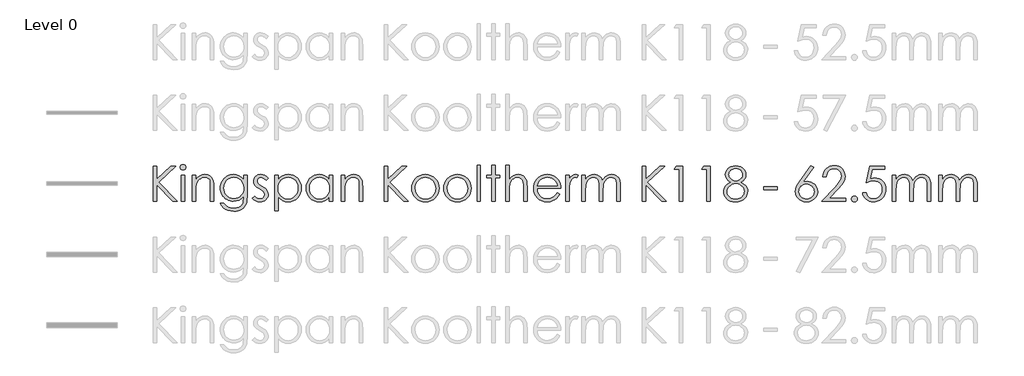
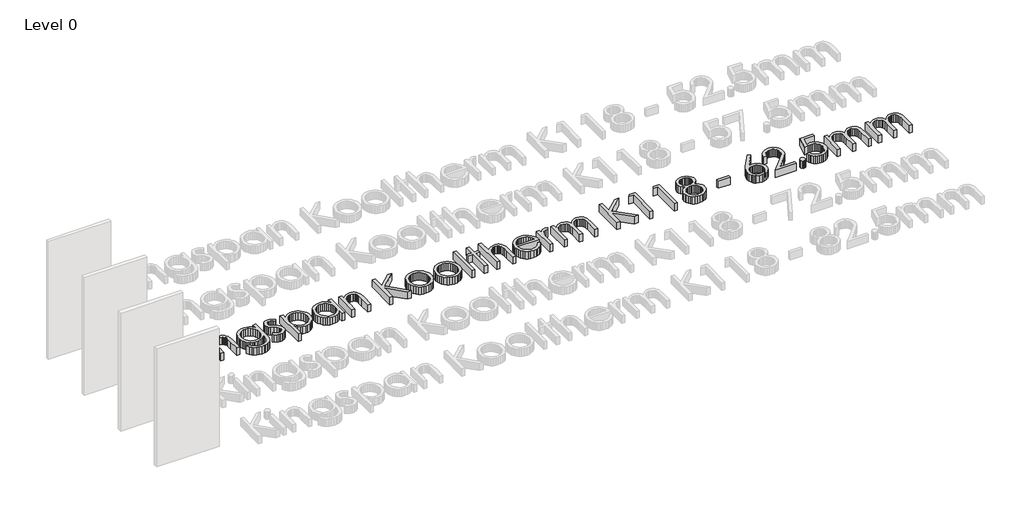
# One storey, part 4 of 8: 1 proxy.
"""IFC4 building model written with IfcOpenShell, lengths in millimetres."""

from ifc_helpers import new_model, si_unit, origin, origin_with_axes, place, context, project, spatial, polyline, outline, extrude, element, save

model = new_model("IFC4")

# Units and contexts
model_context = context("Model", 3, world=origin())
ifc_project = project(units=[si_unit("LENGTHUNIT", "METRE", prefix="MILLI")], contexts=[model_context])

# Site, building, storey
site = spatial("IfcSite", under=ifc_project)
building = spatial("IfcBuilding", under=site)
storey = spatial("IfcBuildingStorey", under=building, Name="Level 0", Elevation=0.0)

# Proxy
placement = place(None, origin())
element("IfcBuildingElementProxy", 1, Name="600mm KI_CenturyGothic", ObjectType="600mm KI_CenturyGothic", at=placement, inside=storey, context=model_context, shape_type="SweptSolid", body=[
    extrude(outline(polyline([(-3852.2663848, 1100.8965983), (-3792.944575, 1100.8965983), (-3792.944575, 881.683973), (-3555.1938841, 1100.8965983), (-3471.6181051, 1100.8965983), (-3760.9664119, 833.9484541), (-3441.9572002, 507.6785001), (-3520.8984627, 507.6785001), (-3792.944575, 785.9039675), (-3792.944575, 507.6785001), (-3852.2663848, 507.6785001), (-3852.2663848, 1100.8965983)])), origin_with_axes(), (0.0, 0.0, 1.0), 150.0),
    extrude(outline(polyline([(-3348.1854852, 1130.5575033), (-3329.145347, 1127.2747208), (-3313.1176445, 1117.4263735), (-3302.226531, 1102.9821307), (-3298.5961598, 1085.911662), (-3302.226531, 1069.0729191), (-3313.1176445, 1054.7059183), (-3329.145347, 1044.857571), (-3348.1854852, 1041.5747885), (-3366.9938975, 1044.857571), (-3382.9443581, 1054.7059183), (-3393.8354717, 1069.0729191), (-3397.4658428, 1085.911662), (-3393.8354717, 1102.9821307), (-3382.9443581, 1117.4263735), (-3366.9938975, 1127.2747208), (-3348.1854852, 1130.5575033)])), origin_with_axes(), (0.0, 0.0, 1.0), 150.0),
    extrude(outline(polyline([(-3377.6919062, 952.5920738), (-3318.3700964, 952.5920738), (-3318.3700964, 507.6785001), (-3377.6919062, 507.6785001), (-3377.6919062, 952.5920738)])), origin_with_axes(), (0.0, 0.0, 1.0), 150.0),
    extrude(outline(polyline([(-3189.8395084, 952.5920738), (-3130.5176986, 952.5920738), (-3130.5176986, 873.4963274), (-3096.9946967, 913.0055796), (-3060.0730495, 940.696815), (-3019.7141359, 957.0334853), (-2975.879335, 962.4790421), (-2953.4357238, 960.9004099), (-2932.2955704, 956.1645135), (-2912.4588747, 948.2713528), (-2893.9256368, 937.2209277), (-2877.212412, 923.4960006), (-2862.835756, 907.5793333), (-2841.0921499, 869.1707787), (-2833.6238199, 844.7912914), (-2828.2892984, 814.4448643), (-2824.0216812, 735.8511905), (-2824.0216812, 507.6785001), (-2883.343491, 507.6785001), (-2883.343491, 720.8662542), (-2883.343491, 823.907002), (-2884.7290183, 844.7043943), (-2889.8125035, 862.7596977), (-2898.2849788, 878.0729123), (-2910.1464442, 890.644038), (-2924.7403432, 900.4441091), (-2941.4101193, 907.4441599), (-2980.977303, 913.0442006), (-3005.3471351, 910.8862539), (-3028.4038541, 904.4124138), (-3050.1474602, 893.6226803), (-3070.5779533, 878.5170534), (-3088.6622225, 860.2348518), (-3103.3671568, 839.915394), (-3114.6927562, 817.55868), (-3122.6390208, 793.1647099), (-3128.5480292, 746.0857475), (-3130.5176986, 671.5858965), (-3130.5176986, 507.6785001), (-3189.8395084, 507.6785001), (-3189.8395084, 952.5920738)])), origin_with_axes(), (0.0, 0.0, 1.0), 150.0),
    extrude(outline(polyline([(-2319.7862977, 952.5920738), (-2260.4644879, 952.5920738), (-2260.4644879, 601.604699), (-2264.5196897, 521.3503235), (-2269.588692, 490.5500999), (-2276.6852953, 465.9678526), (-2289.9371156, 437.3545415), (-2307.2924139, 412.2267729), (-2328.7511904, 390.5845469), (-2354.3134448, 372.4278634), (-2383.3226209, 358.0656902), (-2415.122162, 347.8069951), (-2449.7120682, 341.651778), (-2487.0923395, 339.6000389), (-2541.0458345, 343.6166198), (-2589.206184, 355.6663624), (-2630.260275, 374.4940853), (-2662.8949946, 398.8446068), (-2690.2000204, 432.1938144), (-2715.2650299, 478.0175952), (-2655.94322, 478.0175952), (-2642.4355358, 456.848476), (-2627.0933555, 438.6048954), (-2609.9166791, 423.2868532), (-2590.9055067, 410.8943494), (-2569.7894914, 401.3308318), (-2546.2982864, 394.4997477), (-2492.1903075, 389.0348805), (-2438.5071593, 394.3645743), (-2415.083541, 401.0266916), (-2393.93856, 410.3536559), (-2359.6624492, 434.3952097), (-2336.8567664, 463.8823202), (-2329.3884364, 482.5217658), (-2324.0539149, 506.2302137), (-2319.7862977, 568.8541165), (-2319.7862977, 591.5632468), (-2354.757586, 555.7809182), (-2396.6420279, 529.3834852), (-2443.392712, 513.1047464), (-2492.9627269, 507.6785001), (-2522.4063889, 509.5757553), (-2550.9521133, 515.2675207), (-2578.5999001, 524.7537964), (-2605.3497494, 538.0345825), (-2630.1540674, 554.5257366), (-2651.9652601, 573.6431168), (-2670.7833277, 595.3867228), (-2686.6082702, 619.7565549), (-2699.1456025, 646.0719183), (-2708.1008399, 673.6521184), (-2713.4739824, 702.4971553), (-2715.2650299, 732.607029), (-2713.3967404, 762.8955247), (-2707.7918722, 792.1219437), (-2698.4504251, 820.286286), (-2685.3723991, 847.3885517), (-2668.9971079, 872.5742517), (-2649.7638648, 894.9888971), (-2627.67267, 914.632488), (-2602.7235235, 931.5050242), (-2575.9833294, 945.056157), (-2548.5189922, 954.7355376), (-2520.3305117, 960.543166), (-2491.4178881, 962.4790421), (-2444.5320306, 957.5355579), (-2400.8903346, 942.7051055), (-2359.6045177, 916.1338782), (-2319.7862977, 875.9680694), (-2319.7862977, 952.5920738)]), holes=[polyline([(-2484.1571458, 913.0442006), (-2529.0154023, 907.0193293), (-2570.5908765, 888.9447153), (-2606.2187212, 860.2300242), (-2633.2340897, 822.2849212), (-2650.2659375, 778.0059792), (-2655.94322, 730.2897708), (-2653.0080263, 694.3770964), (-2644.2024452, 661.7182387), (-2629.5264766, 632.3131977), (-2608.9801206, 606.1619734), (-2583.7606272, 584.703197), (-2555.0652466, 569.3754996), (-2522.8939786, 560.1788811), (-2487.2468234, 557.1133416), (-2451.3244937, 560.154743), (-2419.1001219, 569.2789472), (-2390.573708, 584.4859541), (-2365.7452519, 605.7757637), (-2345.6382095, 632.0187128), (-2331.2760363, 662.0851379), (-2322.6587323, 695.975039), (-2319.7862977, 733.6884162), (-2325.0773706, 782.3894593), (-2340.9505892, 825.6063246), (-2366.4983608, 861.8327944), (-2400.8130926, 889.5626508), (-2440.9982119, 907.1738131), (-2484.1571458, 913.0442006)])]), origin_with_axes(), (0.0, 0.0, 1.0), 150.0),
    extrude(outline(polyline([(-1904.5336289, 901.3034257), (-1940.9918246, 863.609359), (-1962.9575012, 885.2371022), (-1984.6721416, 900.6854902), (-2006.1357456, 909.954523), (-2027.3483133, 913.0442006), (-2052.181597, 908.3710632), (-2073.2300256, 894.3516511), (-2087.5970264, 874.1142629), (-2092.3860267, 850.787197), (-2088.4466878, 829.2366958), (-2076.628671, 808.7675817), (-2052.0657341, 786.599145), (-2010.2006027, 760.877579), (-1958.3326401, 728.0111336), (-1939.8428507, 712.1861912), (-1926.315856, 696.7667689), (-1909.9791857, 664.0934284), (-1904.5336289, 627.5579908), (-1906.9474396, 601.4115941), (-1914.1888714, 577.3507299), (-1926.2579245, 555.375398), (-1943.1545989, 535.4855985), (-1963.6719892, 518.9944443), (-1986.6031901, 507.2150485), (-2011.9482016, 500.147411), (-2039.7070237, 497.7915318), (-2077.4397114, 501.6729393), (-2113.3958344, 513.3171617), (-2145.4512394, 531.7972958), (-2171.4817731, 556.1864383), (-2135.7959969, 596.6612148), (-2114.0041146, 575.0334717), (-2091.5749863, 559.5850837), (-2068.5086121, 550.3160509), (-2044.8049918, 547.2263733), (-2013.637869, 552.8650349), (-1987.4914724, 569.7810198), (-1969.7644472, 594.3439566), (-1963.8554388, 622.9234744), (-1967.7561567, 646.7139919), (-1979.4583106, 667.7237995), (-2005.0253927, 689.4287846), (-2050.2119275, 716.2317378), (-2099.762632, 746.8967879), (-2117.441381, 762.0555186), (-2130.3890611, 777.0983864), (-2146.3781427, 809.2310334), (-2151.7078365, 845.689229), (-2149.5305794, 869.7356104), (-2142.9988078, 891.6674937), (-2132.1125219, 911.4848789), (-2116.8717217, 929.187766), (-2098.309518, 943.7526993), (-2077.4590218, 954.1562231), (-2054.3202332, 960.3983373), (-2028.8931521, 962.4790421), (-1997.9481, 958.6555661), (-1966.9064954, 947.185138), (-1935.7683384, 928.0677579), (-1904.5336289, 901.3034257)])), origin_with_axes(), (0.0, 0.0, 1.0), 150.0),
    extrude(outline(polyline([(-1795.7769776, 952.5920738), (-1736.4551678, 952.5920738), (-1736.4551678, 871.4880369), (-1700.9238754, 911.7310876), (-1660.4490989, 940.0788795), (-1614.9922173, 956.8790014), (-1564.5146096, 962.4790421), (-1520.0618732, 958.2403906), (-1478.9305402, 945.5244363), (-1441.1206107, 924.331179), (-1406.6320845, 894.6606189), (-1377.9077381, 859.0231189), (-1357.3903478, 819.929042), (-1345.0799137, 777.3783884), (-1340.9764356, 731.371158), (-1345.0412927, 684.4708176), (-1357.235864, 641.2491246), (-1377.5601494, 601.706079), (-1406.014149, 565.8416808), (-1440.2130179, 536.0697406), (-1477.7719111, 514.8040691), (-1518.6908288, 502.0446661), (-1562.9697708, 497.7915318), (-1612.6170277, 503.256399), (-1658.0545988, 519.6510008), (-1699.3211052, 546.8980951), (-1736.4551678, 584.92044), (-1736.4551678, 349.4870072), (-1795.7769776, 349.4870072), (-1795.7769776, 952.5920738)]), holes=[polyline([(-1568.5311905, 913.0442006), (-1602.5852307, 909.7469353), (-1633.8392507, 899.8551393), (-1662.2932503, 883.3688128), (-1687.9472295, 860.2879556), (-1709.1694525, 832.3022353), (-1724.3281832, 801.1013192), (-1733.4234216, 766.6852074), (-1736.4551678, 729.0538998), (-1731.048232, 680.1983728), (-1714.8274246, 636.5180558), (-1688.5265441, 599.6736505), (-1652.8793888, 571.3258586), (-1611.4390881, 553.2512446), (-1567.7587711, 547.2263733), (-1525.0632888, 553.2898656), (-1485.0326535, 571.4803424), (-1450.2544701, 600.5812433), (-1423.3163435, 639.3760076), (-1406.05277, 684.0411593), (-1400.2982454, 730.7532225), (-1405.9948385, 777.6970114), (-1423.0846177, 822.1304373), (-1449.8103289, 860.4810605), (-1484.414718, 889.1764411), (-1524.7157001, 907.0772607), (-1568.5311905, 913.0442006)])]), origin_with_axes(), (0.0, 0.0, 1.0), 150.0),
    extrude(outline(polyline([(-807.0801472, 952.5920738), (-807.0801472, 507.6785001), (-866.401957, 507.6785001), (-866.401957, 583.5300851), (-903.4780882, 545.6815345), (-944.8797679, 518.9558233), (-990.4525125, 503.0826047), (-1040.0418379, 497.7915318), (-1084.3159523, 502.0446661), (-1125.2203871, 514.8040691), (-1162.7551422, 536.0697406), (-1196.9202178, 565.8416808), (-1225.340424, 601.706079), (-1245.6405713, 641.2491246), (-1257.8206597, 684.4708176), (-1261.8806892, 731.371158), (-1257.7820388, 777.3783884), (-1245.4860875, 819.929042), (-1224.9928353, 859.0231189), (-1196.3022822, 894.6606189), (-1161.8475494, 924.331179), (-1124.061758, 945.5244363), (-1082.9449079, 958.2403906), (-1038.4969991, 962.4790421), (-987.7490446, 956.8790014), (-942.0990581, 940.0788795), (-921.2051134, 927.3918909), (-901.6242816, 911.7310876), (-866.401957, 871.4880369), (-866.401957, 952.5920738), (-807.0801472, 952.5920738)]), holes=[polyline([(-1034.3259343, 913.0442006), (-1078.1414247, 907.0772607), (-1118.4424068, 889.1764411), (-1153.0467959, 860.4810605), (-1179.7725071, 822.1304373), (-1196.8622863, 777.6970114), (-1202.5588794, 730.7532225), (-1196.8043548, 684.0411593), (-1179.5407813, 639.3760076), (-1152.6026548, 600.5812433), (-1117.8244713, 571.4803424), (-1077.6779731, 553.2898656), (-1034.6349021, 547.2263733), (-991.0125165, 553.2512446), (-949.7460102, 571.3258586), (-914.2726493, 599.6736505), (-888.0297002, 636.5180558), (-871.8088928, 680.1983728), (-866.401957, 729.0538998), (-869.4337032, 766.6852074), (-878.5289416, 801.1013192), (-893.6876723, 832.3022353), (-914.9098953, 860.2879556), (-940.5638746, 883.3688128), (-969.0178742, 899.8551393), (-1000.2718941, 909.7469353), (-1034.3259343, 913.0442006)])]), origin_with_axes(), (0.0, 0.0, 1.0), 150.0),
    extrude(outline(polyline([(-668.662591, 952.5920738), (-609.3407811, 952.5920738), (-609.3407811, 873.4963274), (-575.8177792, 913.0055796), (-538.896132, 940.696815), (-498.5372184, 957.0334853), (-454.7024175, 962.4790421), (-432.2588064, 960.9004099), (-411.1186529, 956.1645135), (-391.2819572, 948.2713528), (-372.7487193, 937.2209277), (-356.0354946, 923.4960006), (-341.6588385, 907.5793333), (-319.9152324, 869.1707787), (-312.4469024, 844.7912914), (-307.1123809, 814.4448643), (-302.8447637, 735.8511905), (-302.8447637, 507.6785001), (-362.1665735, 507.6785001), (-362.1665735, 720.8662542), (-362.1665735, 823.907002), (-363.5521008, 844.7043943), (-368.635586, 862.7596977), (-377.1080613, 878.0729123), (-388.9695267, 890.644038), (-403.5634257, 900.4441091), (-420.2332018, 907.4441599), (-459.8003855, 913.0442006), (-484.1702176, 910.8862539), (-507.2269366, 904.4124138), (-528.9705427, 893.6226803), (-549.4010358, 878.5170534), (-567.485305, 860.2348518), (-582.1902393, 839.915394), (-593.5158387, 817.55868), (-601.4621033, 793.1647099), (-607.3711117, 746.0857475), (-609.3407811, 671.5858965), (-609.3407811, 507.6785001), (-668.662591, 507.6785001), (-668.662591, 952.5920738)])), origin_with_axes(), (0.0, 0.0, 1.0), 150.0),
    extrude(outline(polyline([(62.9730635, 1100.8965983), (122.2948734, 1100.8965983), (122.2948734, 881.683973), (360.0455643, 1100.8965983), (443.6213432, 1100.8965983), (154.2730365, 833.9484541), (473.2822481, 507.6785001), (394.3409856, 507.6785001), (122.2948734, 785.9039675), (122.2948734, 507.6785001), (62.9730635, 507.6785001), (62.9730635, 1100.8965983)])), origin_with_axes(), (0.0, 0.0, 1.0), 150.0),
    extrude(outline(polyline([(760.1588128, 962.4790421), (809.4681362, 957.8541809), (854.3553585, 943.9795975), (894.8204798, 920.8552917), (930.8635, 888.4812637), (957.7630055, 853.2492839), (976.9769381, 814.908316), (988.5052976, 773.45836), (992.3480841, 728.8994159), (988.283227, 684.0846079), (976.0886558, 642.1760279), (955.7643703, 603.1736759), (927.3103707, 567.0775519), (892.4742558, 536.7649181), (853.0036246, 515.1130368), (808.8984769, 502.1219081), (760.1588128, 497.7915318), (711.2839754, 502.1219081), (667.0822753, 515.1130368), (627.5537126, 536.7649181), (592.6982872, 567.0775519), (564.2442876, 603.1736759), (543.9200022, 642.1760279), (531.7254309, 684.0846079), (527.6605738, 728.8994159), (531.5033603, 773.2652551), (543.0317198, 814.5993482), (562.2456524, 852.9016951), (589.145158, 888.1722959), (625.2074886, 920.6814974), (665.7305413, 943.9023555), (710.7143161, 957.8348705), (760.1588128, 962.4790421)]), holes=[polyline([(760.004329, 913.0442006), (725.7282181, 909.6696933), (693.9624704, 899.5461716), (664.7070856, 882.6736353), (637.962064, 859.0520846), (615.6584538, 830.6415336), (599.7273037, 799.4019965), (590.1686137, 765.3334734), (586.9823836, 728.4359643), (592.7948396, 680.7004454), (610.2322075, 636.3635719), (637.5758543, 598.5729529), (673.1071466, 570.4761972), (714.6439998, 553.0388293), (760.004329, 547.2263733), (805.3646581, 553.0388293), (846.9015113, 570.4761972), (882.4328037, 598.5729529), (909.7764504, 636.3635719), (927.2138183, 680.7004454), (933.0262743, 728.4359643), (929.8255614, 765.3334734), (920.2234227, 799.4019965), (904.2198583, 830.6415336), (881.8148681, 859.0520846), (854.9974321, 882.6736353), (825.7565303, 899.5461716), (794.0921625, 909.6696933), (760.004329, 913.0442006)])]), origin_with_axes(), (0.0, 0.0, 1.0), 150.0),
    extrude(outline(polyline([(1303.9420695, 962.4790421), (1353.2513929, 957.8541809), (1398.1386152, 943.9795975), (1438.6037365, 920.8552917), (1474.6467567, 888.4812637), (1501.5462622, 853.2492839), (1520.7601948, 814.908316), (1532.2885543, 773.45836), (1536.1313408, 728.8994159), (1532.0664837, 684.0846079), (1519.8719125, 642.1760279), (1499.547627, 603.1736759), (1471.0936274, 567.0775519), (1436.2575126, 536.7649181), (1396.7868813, 515.1130368), (1352.6817336, 502.1219081), (1303.9420695, 497.7915318), (1255.0672321, 502.1219081), (1210.865532, 515.1130368), (1171.3369693, 536.7649181), (1136.4815439, 567.0775519), (1108.0275443, 603.1736759), (1087.7032589, 642.1760279), (1075.5086876, 684.0846079), (1071.4438305, 728.8994159), (1075.286617, 773.2652551), (1086.8149766, 814.5993482), (1106.0289091, 852.9016951), (1132.9284147, 888.1722959), (1168.9907453, 920.6814974), (1209.5137981, 943.9023555), (1254.4975728, 957.8348705), (1303.9420695, 962.4790421)]), holes=[polyline([(1303.7875857, 913.0442006), (1269.5114748, 909.6696933), (1237.7457271, 899.5461716), (1208.4903423, 882.6736353), (1181.7453207, 859.0520846), (1159.4417105, 830.6415336), (1143.5105604, 799.4019965), (1133.9518704, 765.3334734), (1130.7656404, 728.4359643), (1136.5780963, 680.7004454), (1154.0154643, 636.3635719), (1181.359111, 598.5729529), (1216.8904033, 570.4761972), (1258.4272565, 553.0388293), (1303.7875857, 547.2263733), (1349.1479149, 553.0388293), (1390.684768, 570.4761972), (1426.2160604, 598.5729529), (1453.5597071, 636.3635719), (1470.997075, 680.7004454), (1476.809531, 728.4359643), (1473.6088181, 765.3334734), (1464.0066795, 799.4019965), (1448.003115, 830.6415336), (1425.5981249, 859.0520846), (1398.7806889, 882.6736353), (1369.539787, 899.5461716), (1337.8754193, 909.6696933), (1303.7875857, 913.0442006)])]), origin_with_axes(), (0.0, 0.0, 1.0), 150.0),
    extrude(outline(polyline([(1635.0010238, 1120.6705349), (1694.3228337, 1120.6705349), (1694.3228337, 507.6785001), (1635.0010238, 507.6785001), (1635.0010238, 1120.6705349)])), origin_with_axes(), (0.0, 0.0, 1.0), 150.0),
    extrude(outline(polyline([(1882.1752314, 1120.6705349), (1941.4970413, 1120.6705349), (1941.4970413, 952.5920738), (2020.5927877, 952.5920738), (2020.5927877, 903.1572323), (1941.4970413, 903.1572323), (1941.4970413, 507.6785001), (1882.1752314, 507.6785001), (1882.1752314, 903.1572323), (1803.079485, 903.1572323), (1803.079485, 952.5920738), (1882.1752314, 952.5920738), (1882.1752314, 1120.6705349)])), origin_with_axes(), (0.0, 0.0, 1.0), 150.0),
    extrude(outline(polyline([(2119.4624707, 1120.6705349), (2178.7842806, 1120.6705349), (2178.7842806, 871.9514886), (2212.5583188, 911.6538456), (2249.6151394, 939.9243956), (2289.9161216, 956.8403805), (2333.4226442, 962.4790421), (2355.8662553, 960.9004099), (2377.0064088, 956.1645135), (2396.8431044, 948.2713528), (2415.3763424, 937.2209277), (2432.0895671, 923.5104834), (2446.4662232, 907.6372648), (2468.2098293, 869.4025045), (2475.6781593, 845.0954316), (2481.0126808, 814.7345216), (2485.280298, 735.8511905), (2485.280298, 507.6785001), (2425.9584882, 507.6785001), (2425.9584882, 720.8662542), (2424.5681332, 785.247411), (2420.3970685, 823.907002), (2406.879729, 862.7596977), (2397.1665551, 878.0729123), (2385.4837117, 890.644038), (2371.840854, 900.4441091), (2356.2476374, 907.4441599), (2319.2101273, 913.0442006), (2296.3416854, 910.8862539), (2274.6994594, 904.4124138), (2254.2834492, 893.6226803), (2235.0936547, 878.5170534), (2218.1052556, 860.2348518), (2204.2934312, 839.915394), (2193.6581816, 817.55868), (2186.1995068, 793.1647099), (2180.6380871, 746.3174733), (2178.7842806, 671.5858965), (2178.7842806, 507.6785001), (2119.4624707, 507.6785001), (2119.4624707, 1120.6705349)])), origin_with_axes(), (0.0, 0.0, 1.0), 150.0),
    extrude(outline(polyline([(2991.0605203, 655.9830247), (3038.950523, 630.8021523), (3013.3255094, 588.9177104), (2984.0315038, 555.9547125), (2950.952643, 530.8703926), (2913.9730643, 512.6219843), (2872.4941426, 501.4991449), (2825.9172528, 497.7915318), (2774.4258447, 502.2232881), (2728.8627554, 515.518557), (2689.227985, 537.6773385), (2655.5215335, 568.6996326), (2628.6220279, 605.3026569), (2609.4080954, 644.2036288), (2597.8797358, 685.4025485), (2594.0369493, 728.8994159), (2597.3197318, 769.7797126), (2607.1680791, 808.381372), (2623.5819913, 844.7043943), (2646.5614684, 878.7487793), (2682.7493173, 915.3807692), (2724.5758277, 941.5464764), (2772.0409998, 957.2459007), (2825.1448334, 962.4790421), (2879.7935059, 957.1107273), (2928.6490329, 941.0057828), (2971.7114143, 914.1642087), (3008.9806503, 876.5860049), (3030.4539096, 844.414737), (3045.9022976, 808.458614), (3055.3258143, 768.7176359), (3058.7244596, 725.1918028), (2653.3587591, 725.1918028), (2657.095338, 687.9370497), (2666.6057518, 654.1871496), (2681.8900007, 623.9421025), (2702.9480845, 597.2019084), (2728.3124066, 575.3376118), (2756.5153699, 559.7202571), (2787.5569744, 550.3498443), (2821.4372203, 547.2263733), (2854.9602222, 550.238809), (2887.5563208, 559.2761159), (2917.2944677, 573.3148385), (2942.2436143, 591.331521), (2965.725164, 617.4972281), (2991.0605203, 655.9830247)]), holes=[polyline([(2999.4026498, 774.6266443), (2984.9777175, 817.1483322), (2965.1844704, 850.1692615), (2939.0766947, 875.6977226), (2905.7081767, 895.742006), (2867.7630738, 908.7186519), (2827.9255433, 913.0442006), (2795.503239, 910.3310774), (2765.4368139, 902.191708), (2737.726268, 888.6260923), (2712.3716012, 869.6342304), (2695.8321708, 851.820308), (2681.4362043, 830.0477362), (2669.1837016, 804.316515), (2659.0746627, 774.6266443), (2999.4026498, 774.6266443)])]), origin_with_axes(), (0.0, 0.0, 1.0), 150.0),
    extrude(outline(polyline([(3137.820206, 952.5920738), (3197.1420159, 952.5920738), (3197.1420159, 888.1722959), (3222.6897875, 921.2125357), (3249.589293, 944.3271862), (3277.7632906, 957.9410781), (3307.1345382, 962.4790421), (3330.4616041, 958.694187), (3355.3335087, 947.3396219), (3325.8270877, 905.3200066), (3297.2475699, 913.0442006), (3270.8308265, 907.0965712), (3245.3409863, 889.2536831), (3223.2884125, 858.8976007), (3207.183468, 815.4103886), (3199.6523789, 757.2858288), (3197.1420159, 659.8451217), (3197.1420159, 507.6785001), (3137.820206, 507.6785001), (3137.820206, 952.5920738)])), origin_with_axes(), (0.0, 0.0, 1.0), 150.0),
    extrude(outline(polyline([(3414.6553185, 952.5920738), (3473.9771284, 952.5920738), (3473.9771284, 876.4315211), (3503.5607913, 912.9283377), (3533.9168737, 938.0705891), (3577.3268439, 956.3769288), (3622.8995884, 962.4790421), (3653.7384329, 959.331433), (3682.9165757, 949.8886059), (3708.6767627, 935.2126373), (3729.2617397, 916.365604), (3746.0425511, 890.9336953), (3760.3902414, 856.5031006), (3775.16759, 880.9018983), (3791.6925376, 902.191708), (3809.965084, 920.3725296), (3829.9852293, 935.4443631), (3851.2798666, 947.2720352), (3873.375889, 955.7203723), (3896.2732965, 960.7893747), (3919.9720892, 962.4790421), (3962.3006723, 956.6665861), (3981.4952943, 949.4010161), (3999.3768034, 939.2292182), (4015.4914031, 926.46016), (4029.385297, 911.4028093), (4050.5109676, 874.4232306), (4057.8103309, 851.0478886), (4063.0241619, 822.4780261), (4067.1952266, 749.7547397), (4067.1952266, 507.6785001), (4007.8734168, 507.6785001), (4007.8734168, 753.3078689), (4005.4209852, 814.4255538), (3998.0636904, 852.8727294), (3984.7587663, 877.3391139), (3964.4634466, 896.5144254), (3938.3942919, 908.9117568), (3907.7678627, 913.0442006), (3888.1194443, 911.4945341), (3869.3399976, 906.8455349), (3834.3880198, 888.2495379), (3805.6540182, 859.3031209), (3785.8800816, 822.0531954), (3779.1889985, 797.8957787), (3774.4096535, 766.8252084), (3770.5861775, 683.9446069), (3770.5861775, 507.6785001), (3711.2643677, 507.6785001), (3711.2643677, 738.0139648), (3708.850557, 806.469634), (3701.6091252, 848.7016647), (3688.3621325, 874.9446137), (3667.9316394, 895.4330383), (3641.6114484, 908.64141), (3610.6953619, 913.0442006), (3573.7544042, 907.0000188), (3539.2465676, 888.8674734), (3510.2808401, 860.500371), (3489.9662099, 823.7525181), (3477.9743988, 771.9231764), (3473.9771284, 698.3116077), (3473.9771284, 507.6785001), (3414.6553185, 507.6785001), (3414.6553185, 952.5920738)])), origin_with_axes(), (0.0, 0.0, 1.0), 150.0),
    extrude(outline(polyline([(4433.0130538, 1100.8965983), (4492.3348637, 1100.8965983), (4492.3348637, 881.683973), (4730.0855546, 1100.8965983), (4813.6613335, 1100.8965983), (4524.3130268, 833.9484541), (4843.3222385, 507.6785001), (4764.3809759, 507.6785001), (4492.3348637, 785.9039675), (4492.3348637, 507.6785001), (4433.0130538, 507.6785001), (4433.0130538, 1100.8965983)])), origin_with_axes(), (0.0, 0.0, 1.0), 150.0),
    extrude(outline(polyline([(5010.6282802, 1100.8965983), (5125.1008351, 1100.8965983), (5125.1008351, 507.6785001), (5065.7790253, 507.6785001), (5065.7790253, 1051.4617568), (4976.7963106, 1051.4617568), (5010.6282802, 1100.8965983)])), origin_with_axes(), (0.0, 0.0, 1.0), 150.0),
    extrude(outline(polyline([(5475.3157905, 1100.8965983), (5589.7883454, 1100.8965983), (5589.7883454, 507.6785001), (5530.4665356, 507.6785001), (5530.4665356, 1051.4617568), (5441.4838208, 1051.4617568), (5475.3157905, 1100.8965983)])), origin_with_axes(), (0.0, 0.0, 1.0), 150.0),
    extrude(outline(polyline([(6107.7727942, 831.7856798), (6159.8724826, 800.3868313), (6179.6946955, 783.1522234), (6195.365154, 764.8941599), (6207.2604128, 745.4774673), (6215.7570261, 724.7669721), (6220.8549942, 702.7626745), (6222.5543169, 679.4645744), (6219.734986, 646.7815786), (6211.2769936, 616.0875627), (6197.1803396, 587.3825268), (6177.445024, 560.6664709), (6146.7510081, 533.158685), (6110.1286734, 513.5102666), (6067.5780197, 501.7212155), (6019.0990472, 497.7915318), (5972.4352603, 501.243281), (5931.7770342, 511.5985286), (5897.1243689, 528.8572745), (5868.4772645, 553.0195188), (5846.0384809, 581.3335174), (5830.0107784, 611.0475261), (5820.3941569, 642.161545), (5817.1886164, 674.6755741), (5818.9024219, 698.4033325), (5824.0438386, 720.9241856), (5832.6128663, 742.2381334), (5844.609505, 762.3451759), (5860.5068618, 781.3128997), (5880.7780434, 799.2088917), (5905.4230498, 816.0331517), (5934.4418811, 831.7856798), (5896.0719475, 856.7348264), (5868.7089903, 887.0909088), (5852.3143886, 921.3477091), (5846.8495213, 957.9990096), (5852.6426668, 995.7123867), (5870.0221033, 1032.5374816), (5897.6360968, 1065.0563382), (5934.1329134, 1089.8510009), (5976.7318432, 1105.5504252), (6022.6521765, 1110.7835666), (6067.3945701, 1105.5118042), (6108.6224555, 1089.6965171), (6143.8254696, 1064.8246124), (6170.4932494, 1032.3829977), (6187.2933713, 995.2489351), (6192.8934119, 956.2996869), (6187.5830286, 918.7601041), (6171.6518785, 885.54607), (6145.0613407, 856.5803425), (6107.7727942, 831.7856798)]), holes=[polyline([(6022.9611442, 804.2875492), (5993.0926516, 801.7771862), (5965.7441773, 794.246097), (5940.9157212, 781.6942818), (5918.6072834, 764.1217405), (5900.1899084, 743.2181405), (5887.0346405, 720.6731493), (5879.1414798, 696.4867669), (5876.5104262, 670.6589932), (5881.0097692, 638.5456567), (5894.5077982, 608.3247478), (5916.0776099, 582.3907665), (5944.7923011, 563.1382129), (5979.6670369, 551.2043332), (6019.7169827, 547.2263733), (6050.9372093, 549.6450116), (6078.7877563, 556.9009263), (6103.2686236, 568.9941175), (6124.3798113, 585.9245852), (6141.3778657, 606.0895591), (6153.5193331, 627.886269), (6160.8042135, 651.3147149), (6163.232507, 676.3748968), (6160.6642125, 700.7061079), (6152.959329, 723.646964), (6140.1178565, 745.1974652), (6122.139795, 765.3576115), (6100.5313623, 782.3894593), (6076.7987763, 794.5550648), (6050.9420369, 801.8544281), (6022.9611442, 804.2875492)]), polyline([(6019.7169827, 1061.3487251), (5996.2112949, 1059.4900909), (5974.8201052, 1053.9141884), (5955.5434136, 1044.6210175), (5938.3812201, 1031.6105783), (5924.2893937, 1016.0221893), (5914.2238034, 998.9951692), (5908.1844492, 980.5295179), (5906.1713311, 960.6252355), (5908.3389331, 940.7161255), (5914.8417389, 921.7725398), (5925.6797486, 903.7944783), (5940.8529621, 886.781941), (5958.9130932, 872.3183878), (5978.4118554, 861.9872783), (5999.3492487, 855.7886126), (6021.7252732, 853.7223907), (6050.4399643, 857.4686248), (6077.5711957, 868.7073271), (6101.0334349, 886.4536628), (6118.7411497, 909.7227972), (6129.863989, 935.7726414), (6133.5716021, 961.8611066), (6131.7467613, 980.0322729), (6126.2722388, 997.4696408), (6117.1480347, 1014.1732103), (6104.3741488, 1030.1429814), (6088.134031, 1043.7954943), (6068.6111307, 1053.5472892), (6045.8054479, 1059.3983661), (6019.7169827, 1061.3487251)])]), origin_with_axes(), (0.0, 0.0, 1.0), 150.0),
    extrude(outline(polyline([(6499.3894294, 754.8527077), (6726.7897004, 754.8527077), (6726.7897004, 705.4178662), (6499.3894294, 705.4178662), (6499.3894294, 754.8527077)])), origin_with_axes(), (0.0, 0.0, 1.0), 150.0),
    extrude(outline(polyline([(7290.3468937, 1110.7835666), (7342.7169289, 1085.1392426), (7166.605306, 839.0464222), (7229.1712773, 843.8354224), (7265.2915394, 840.7650553), (7298.5731603, 831.553954), (7329.0161398, 816.2021184), (7356.6204781, 794.7095487), (7379.5323685, 768.7272912), (7395.8980045, 739.9063923), (7405.7173861, 708.2468522), (7408.9905133, 673.7486708), (7407.4601574, 649.6974618), (7402.8690896, 626.8241924), (7395.2173099, 605.1288625), (7384.5048184, 584.6114722), (7370.9826513, 565.7065074), (7354.9018449, 548.8484541), (7315.0643144, 521.2730815), (7268.3715618, 503.6619192), (7218.2029218, 497.7915318), (7169.830157, 503.6426087), (7125.1263843, 521.1958396), (7104.8407198, 534.0807607), (7086.8530031, 549.3312162), (7071.163234, 566.9472061), (7057.7714127, 586.9287304), (7039.4071415, 630.7635313), (7033.2857178, 677.6107678), (7037.1091938, 714.5517256), (7048.5796219, 753.3851108), (7069.8983973, 797.2006012), (7103.2669153, 849.0878744), (7290.3468937, 1110.7835666)]), holes=[polyline([(7216.5035992, 794.4005809), (7190.2268567, 792.1412542), (7166.5473745, 785.363274), (7145.4651526, 774.0666402), (7126.9801908, 758.2513531), (7111.9421507, 739.2208701), (7101.2006934, 718.2786492), (7094.755819, 695.4246902), (7092.6075276, 670.6589932), (7094.9585791, 646.0284697), (7102.0117338, 623.2710631), (7113.7669915, 602.3867736), (7130.2243523, 583.3756012), (7150.0127718, 567.560314), (7171.7612055, 556.2636803), (7195.4696534, 549.4857001), (7221.1381155, 547.2263733), (7246.8065777, 549.4857001), (7270.5150256, 556.2636803), (7292.2634593, 567.560314), (7312.0518788, 583.3756012), (7328.5092396, 602.3867736), (7340.2644973, 623.2710631), (7347.317652, 646.0284697), (7349.6687035, 670.6589932), (7347.2307548, 695.4246902), (7339.9169086, 718.2786492), (7327.727165, 739.2208701), (7310.6615239, 758.2513531), (7290.1489612, 774.0666402), (7267.6184529, 785.363274), (7243.0699988, 792.1412542), (7216.5035992, 794.4005809)])]), origin_with_axes(), (0.0, 0.0, 1.0), 150.0),
    extrude(outline(polyline([(7557.2950379, 922.9311689), (7497.9732281, 922.9311689), (7502.4580882, 962.1893848), (7513.5954104, 997.7786086), (7531.3851947, 1029.6988403), (7555.827441, 1057.9500798), (7585.2228268, 1081.0647303), (7617.8720292, 1097.5751949), (7653.7750484, 1107.4814737), (7692.9318843, 1110.7835666), (7731.403198, 1107.4863013), (7766.0220699, 1097.5945054), (7796.7885001, 1081.1081789), (7823.7024885, 1058.0273217), (7845.5667851, 1030.466432), (7861.1841398, 1000.540008), (7870.5545527, 968.2480495), (7873.6780236, 933.5905566), (7867.5952208, 884.7929611), (7849.3468125, 839.1236641), (7813.5644839, 787.236391), (7754.8799201, 719.784867), (7602.095363, 557.1133416), (7883.5649919, 557.1133416), (7883.5649919, 507.6785001), (7478.1992914, 507.6785001), (7704.2092075, 748.3643848), (7760.9434124, 813.8848603), (7793.6553739, 859.9789879), (7809.1810038, 897.3447763), (7814.3562138, 936.6802342), (7812.1065423, 961.2866196), (7805.3575278, 984.1260957), (7794.1091703, 1005.1986625), (7778.3614698, 1024.5043198), (7759.3502973, 1040.6237471), (7738.311524, 1052.1376238), (7715.2451497, 1059.0459498), (7690.1511745, 1061.3487251), (7663.8165006, 1059.0749155), (7639.8087401, 1052.2534867), (7618.1278932, 1040.8844387), (7598.7739596, 1024.9677714), (7582.5386694, 1004.9476262), (7570.2137523, 981.268144), (7561.7992085, 953.9293249), (7557.2950379, 922.9311689)])), origin_with_axes(), (0.0, 0.0, 1.0), 150.0),
    extrude(outline(polyline([(8031.8695165, 596.6612148), (8050.8903442, 593.0694646), (8066.8601152, 582.294214), (8077.6932973, 566.3437534), (8081.304358, 547.2263733), (8077.6932973, 528.3020981), (8066.8601152, 512.3130165), (8050.8903442, 501.421903), (8031.8695165, 497.7915318), (8012.8486888, 501.421903), (7996.8789177, 512.3130165), (7986.0457356, 528.3020981), (7982.4346749, 547.2263733), (7986.0457356, 566.3437534), (7996.8789177, 582.294214), (8012.8486888, 593.0694646), (8031.8695165, 596.6612148)])), origin_with_axes(), (0.0, 0.0, 1.0), 150.0),
    extrude(outline(polyline([(8545.9918683, 1100.8965983), (8545.9918683, 1051.4617568), (8338.6745016, 1051.4617568), (8304.2245965, 890.4895541), (8341.8028002, 899.9903127), (8375.441665, 903.1572323), (8415.0281592, 899.7344488), (8450.9842822, 889.4660984), (8483.3100341, 872.3521811), (8512.0054147, 848.3926969), (8535.5255854, 819.0842083), (8552.3257073, 785.923278), (8562.4057805, 748.909906), (8565.7658049, 708.0440921), (8564.0423441, 679.0783647), (8558.8719617, 651.3485083), (8550.2546578, 624.8545229), (8538.1904323, 599.5964086), (8523.1861855, 576.3948609), (8505.7488176, 556.0705754), (8485.8783286, 538.6235523), (8463.5747184, 524.0537914), (8439.1421273, 512.5640528), (8412.8846954, 504.3570967), (8384.8024226, 499.432923), (8354.895309, 497.7915318), (8319.5619491, 500.5481035), (8287.0961963, 508.8178187), (8257.4980505, 522.6006774), (8230.7675116, 541.8966795), (8208.0149327, 565.5665064), (8190.3506666, 592.4708396), (8177.7747133, 622.609679), (8170.2870727, 655.9830247), (8229.6088825, 655.9830247), (8239.1868831, 623.2517526), (8253.7083678, 597.3563923), (8273.5402358, 577.0417621), (8299.0493865, 561.0526806), (8328.0730454, 550.6829501), (8358.4484383, 547.2263733), (8387.7376163, 550.1519118), (8414.8929858, 558.9285272), (8439.9145467, 573.5562196), (8462.802299, 594.0349889), (8481.895541, 618.9068935), (8495.533571, 646.7139919), (8503.716389, 677.456284), (8506.4439951, 711.1337697), (8503.9819082, 741.3208854), (8496.5956477, 768.5438415), (8484.2852135, 792.8026383), (8467.0506057, 814.0972756), (8445.6932093, 831.4332635), (8421.0144096, 843.816112), (8393.0142063, 851.245821), (8361.6925997, 853.7223907), (8332.9875638, 851.8685842), (8301.4052657, 846.3071645), (8229.6088825, 824.0614858), (8288.9306924, 1100.8965983), (8545.9918683, 1100.8965983)])), origin_with_axes(), (0.0, 0.0, 1.0), 150.0),
    extrude(outline(polyline([(8674.5224562, 952.5920738), (8733.844266, 952.5920738), (8733.844266, 876.4315211), (8763.427929, 912.9283377), (8793.7840114, 938.0705891), (8837.1939816, 956.3769288), (8882.7667261, 962.4790421), (8913.6055706, 959.331433), (8942.7837134, 949.8886059), (8968.5439003, 935.2126373), (8989.1288773, 916.365604), (9005.9096888, 890.9336953), (9020.2573791, 856.5031006), (9035.0347277, 880.9018983), (9051.5596752, 902.191708), (9069.8322216, 920.3725296), (9089.8523669, 935.4443631), (9111.1470042, 947.2720352), (9133.2430266, 955.7203723), (9156.1404342, 960.7893747), (9179.8392269, 962.4790421), (9222.1678099, 956.6665861), (9241.362432, 949.4010161), (9259.2439411, 939.2292182), (9275.3585408, 926.46016), (9289.2524347, 911.4028093), (9310.3781053, 874.4232306), (9317.6774686, 851.0478886), (9322.8912995, 822.4780261), (9327.0623643, 749.7547397), (9327.0623643, 507.6785001), (9267.7405545, 507.6785001), (9267.7405545, 753.3078689), (9265.2881229, 814.4255538), (9257.9308281, 852.8727294), (9244.6259039, 877.3391139), (9224.3305842, 896.5144254), (9198.2614295, 908.9117568), (9167.6350004, 913.0442006), (9147.9865819, 911.4945341), (9129.2071353, 906.8455349), (9094.2551575, 888.2495379), (9065.5211559, 859.3031209), (9045.7472193, 822.0531954), (9039.0561362, 797.8957787), (9034.2767912, 766.8252084), (9030.4533152, 683.9446069), (9030.4533152, 507.6785001), (8971.1315053, 507.6785001), (8971.1315053, 738.0139648), (8968.7176947, 806.469634), (8961.4762628, 848.7016647), (8948.2292702, 874.9446137), (8927.7987771, 895.4330383), (8901.4785861, 908.64141), (8870.5624996, 913.0442006), (8833.6215419, 907.0000188), (8799.1137052, 888.8674734), (8770.1479778, 860.500371), (8749.8333476, 823.7525181), (8737.8415364, 771.9231764), (8733.844266, 698.3116077), (8733.844266, 507.6785001), (8674.5224562, 507.6785001), (8674.5224562, 952.5920738)])), origin_with_axes(), (0.0, 0.0, 1.0), 150.0),
    extrude(outline(polyline([(9465.4799205, 952.5920738), (9524.8017304, 952.5920738), (9524.8017304, 876.4315211), (9554.3853933, 912.9283377), (9584.7414757, 938.0705891), (9628.1514459, 956.3769288), (9673.7241904, 962.4790421), (9704.5630349, 959.331433), (9733.7411777, 949.8886059), (9759.5013647, 935.2126373), (9780.0863416, 916.365604), (9796.8671531, 890.9336953), (9811.2148434, 856.5031006), (9825.992192, 880.9018983), (9842.5171395, 902.191708), (9860.7896859, 920.3725296), (9880.8098312, 935.4443631), (9902.1044685, 947.2720352), (9924.200491, 955.7203723), (9947.0978985, 960.7893747), (9970.7966912, 962.4790421), (10013.1252742, 956.6665861), (10032.3198963, 949.4010161), (10050.2014054, 939.2292182), (10066.3160051, 926.46016), (10080.209899, 911.4028093), (10101.3355696, 874.4232306), (10108.6349329, 851.0478886), (10113.8487638, 822.4780261), (10118.0198286, 749.7547397), (10118.0198286, 507.6785001), (10058.6980188, 507.6785001), (10058.6980188, 753.3078689), (10056.2455872, 814.4255538), (10048.8882924, 852.8727294), (10035.5833683, 877.3391139), (10015.2880486, 896.5144254), (9989.2188938, 908.9117568), (9958.5924647, 913.0442006), (9938.9440462, 911.4945341), (9920.1645996, 906.8455349), (9885.2126218, 888.2495379), (9856.4786202, 859.3031209), (9836.7046836, 822.0531954), (9830.0136005, 797.8957787), (9825.2342555, 766.8252084), (9821.4107795, 683.9446069), (9821.4107795, 507.6785001), (9762.0889696, 507.6785001), (9762.0889696, 738.0139648), (9759.675159, 806.469634), (9752.4337272, 848.7016647), (9739.1867345, 874.9446137), (9718.7562414, 895.4330383), (9692.4360504, 908.64141), (9661.5199639, 913.0442006), (9624.5790062, 907.0000188), (9590.0711695, 888.8674734), (9561.1054421, 860.500371), (9540.7908119, 823.7525181), (9528.7990007, 771.9231764), (9524.8017304, 698.3116077), (9524.8017304, 507.6785001), (9465.4799205, 507.6785001), (9465.4799205, 952.5920738)])), origin_with_axes(), (0.0, 0.0, 1.0), 150.0),
])

save(model, "model.ifc")
